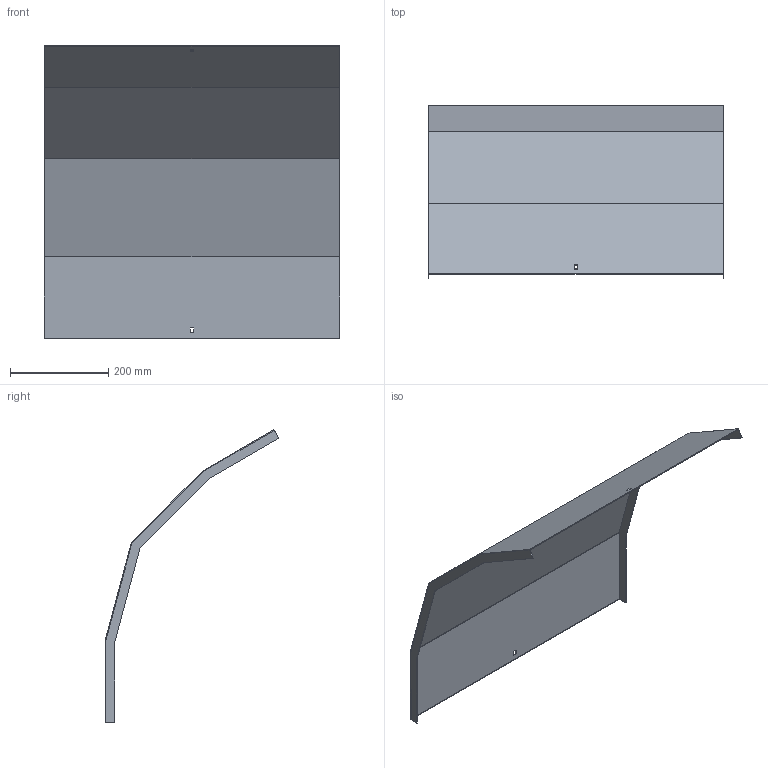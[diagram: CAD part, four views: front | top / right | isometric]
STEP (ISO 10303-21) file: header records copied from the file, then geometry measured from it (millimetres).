
FILE_DESCRIPTION (( 'STEP AP214' ), '1' );
FILE_NAME ('A2_41N3J600.step', '2025-02-21T10:40:44', ( '' ), ( '' ), 'SwSTEP 2.0', 'SolidWorks 2023', '' );
FILE_SCHEMA (( 'AUTOMOTIVE_DESIGN' ));
Length unit declared in the file: millimetre
Products named in the file (1): A2_41N3J600
Bounding box: 603 x 354.25 x 596.25 mm (x, y, z)
Volume: 715830 mm3; surface area: 958633.3 mm2
Topology: 1 solids, 1 shells, 30 faces, 84 edges, 56 vertices
Faces by surface type: plane 30
Entity records: 979 total; most frequent: CARTESIAN_POINT 171, ORIENTED_EDGE 168, DIRECTION 146, VECTOR 84, EDGE_CURVE 84, LINE 84, VERTEX_POINT 56, EDGE_LOOP 34
